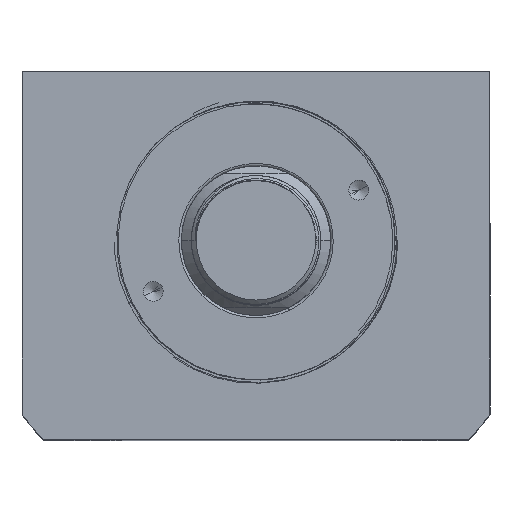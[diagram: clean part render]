
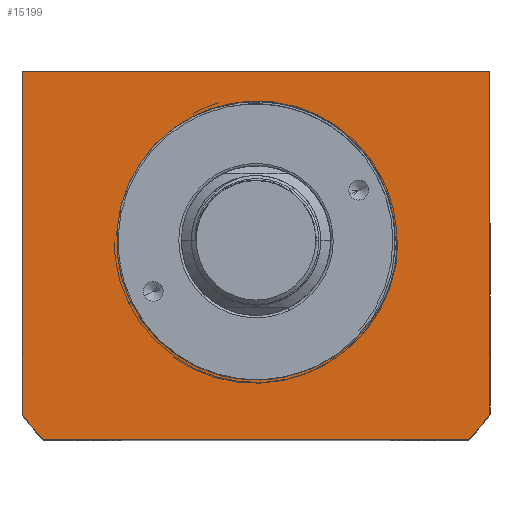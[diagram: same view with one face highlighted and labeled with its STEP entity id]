
A CAD part, top view. The second image highlights one B-rep face of the part: STEP entity #15199.
In plain terms, the highlighted planar face has unit normal (0, 0, 1).
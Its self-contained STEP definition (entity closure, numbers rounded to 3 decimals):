
#452 = DIRECTION ( 'NONE',  ( 1., 0., 0. ) ) ;
#909 = CARTESIAN_POINT ( 'NONE',  ( 19.714, -20.129, 42.5 ) ) ;
#971 = VECTOR ( 'NONE', #2921, 1000. ) ;
#1012 = DIRECTION ( 'NONE',  ( -1., 0., 0. ) ) ;
#1227 = DIRECTION ( 'NONE',  ( 0., 0., 1. ) ) ;
#1289 = VERTEX_POINT ( 'NONE', #8212 ) ;
#1415 = CIRCLE ( 'NONE', #11120, 58.5 ) ;
#1480 = CARTESIAN_POINT ( 'NONE',  ( 0., 0., 42.5 ) ) ;
#1580 = EDGE_LOOP ( 'NONE', ( #5477, #16166, #16432 ) ) ;
#1756 = ORIENTED_EDGE ( 'NONE', *, *, #5158, .T. ) ;
#1800 = CIRCLE ( 'NONE', #11400, 28. ) ;
#1821 = AXIS2_PLACEMENT_3D ( 'NONE', #9131, #13768, #452 ) ;
#1823 = EDGE_CURVE ( 'NONE', #5119, #17941, #16196, .T. ) ;
#2467 = CARTESIAN_POINT ( 'NONE',  ( 24.178, -14.712, 42.5 ) ) ;
#2528 = CARTESIAN_POINT ( 'NONE',  ( 26.694, -9.657, 42.5 ) ) ;
#2652 = CARTESIAN_POINT ( 'NONE',  ( 24.898, -13.504, 42.5 ) ) ;
#2921 = DIRECTION ( 'NONE',  ( 0., -1., 0. ) ) ;
#3237 = DIRECTION ( 'NONE',  ( 0., 0., 1. ) ) ;
#3319 = EDGE_CURVE ( 'NONE', #5119, #4104, #18702, .T. ) ;
#3473 = EDGE_CURVE ( 'NONE', #1289, #18436, #3647, .T. ) ;
#3643 = DIRECTION ( 'NONE',  ( 0., 1., 0. ) ) ;
#3647 = CIRCLE ( 'NONE', #3950, 58.5 ) ;
#3930 = CARTESIAN_POINT ( 'NONE',  ( 18.129, -21.529, 42.5 ) ) ;
#3950 = AXIS2_PLACEMENT_3D ( 'NONE', #1480, #1227, #8678 ) ;
#3993 = CARTESIAN_POINT ( 'NONE',  ( 11.542, -25.544, 42.5 ) ) ;
#4052 = CARTESIAN_POINT ( 'NONE',  ( 10.89, -25.816, 42.5 ) ) ;
#4104 = VERTEX_POINT ( 'NONE', #9238 ) ;
#4114 = CARTESIAN_POINT ( 'NONE',  ( 10.232, -26.064, 42.5 ) ) ;
#4768 = DIRECTION ( 'NONE',  ( 1., 0., 0. ) ) ;
#4950 = FACE_OUTER_BOUND ( 'NONE', #5970, .T. ) ;
#5119 = VERTEX_POINT ( 'NONE', #16341 ) ;
#5158 = EDGE_CURVE ( 'NONE', #8362, #6967, #6825, .T. ) ;
#5268 = ORIENTED_EDGE ( 'NONE', *, *, #6866, .T. ) ;
#5361 = CARTESIAN_POINT ( 'NONE',  ( 27.555, -6.99, 42.5 ) ) ;
#5477 = ORIENTED_EDGE ( 'NONE', *, *, #1823, .F. ) ;
#5970 = EDGE_LOOP ( 'NONE', ( #1756, #6735, #13197, #8801, #5268, #14150 ) ) ;
#6165 = EDGE_CURVE ( 'NONE', #6967, #1289, #11136, .T. ) ;
#6735 = ORIENTED_EDGE ( 'NONE', *, *, #6165, .T. ) ;
#6750 = CARTESIAN_POINT ( 'NONE',  ( 28.323, -2.832, 42.5 ) ) ;
#6825 = LINE ( 'NONE', #14579, #13811 ) ;
#6866 = EDGE_CURVE ( 'NONE', #8788, #12381, #1415, .T. ) ;
#6967 = VERTEX_POINT ( 'NONE', #12274 ) ;
#7026 = CARTESIAN_POINT ( 'NONE',  ( -42.688, -40., 42.5 ) ) ;
#7152 = CARTESIAN_POINT ( 'NONE',  ( 42.688, -40., 42.5 ) ) ;
#7299 = DIRECTION ( 'NONE',  ( 0., 0., -1. ) ) ;
#7354 = DIRECTION ( 'NONE',  ( -1., 0., 0. ) ) ;
#7439 = CARTESIAN_POINT ( 'NONE',  ( 28., 0., 42.5 ) ) ;
#8212 = CARTESIAN_POINT ( 'NONE',  ( -47., -34.832, 42.5 ) ) ;
#8235 = CARTESIAN_POINT ( 'NONE',  ( 27.887, -5.628, 42.5 ) ) ;
#8362 = VERTEX_POINT ( 'NONE', #8448 ) ;
#8368 = CARTESIAN_POINT ( 'NONE',  ( 21.684, -18.094, 42.5 ) ) ;
#8448 = CARTESIAN_POINT ( 'NONE',  ( 47., 34., 42.5 ) ) ;
#8678 = DIRECTION ( 'NONE',  ( 1., 0., 0. ) ) ;
#8788 = VERTEX_POINT ( 'NONE', #14681 ) ;
#8801 = ORIENTED_EDGE ( 'NONE', *, *, #12981, .T. ) ;
#9131 = CARTESIAN_POINT ( 'NONE',  ( 0., 0., 42.5 ) ) ;
#9202 = CARTESIAN_POINT ( 'NONE',  ( 0., 0., 42.5 ) ) ;
#9238 = CARTESIAN_POINT ( 'NONE',  ( 10.232, -26.064, 42.5 ) ) ;
#9558 = CARTESIAN_POINT ( 'NONE',  ( 0., 0., 42.5 ) ) ;
#9725 = CARTESIAN_POINT ( 'NONE',  ( 20.224, -19.631, 42.5 ) ) ;
#9890 = VECTOR ( 'NONE', #3643, 1000. ) ;
#10128 = CARTESIAN_POINT ( 'NONE',  ( 0., 0., 42.5 ) ) ;
#10492 = EDGE_CURVE ( 'NONE', #12381, #8362, #18937, .T. ) ;
#11120 = AXIS2_PLACEMENT_3D ( 'NONE', #9202, #3237, #4768 ) ;
#11136 = LINE ( 'NONE', #17682, #971 ) ;
#11240 = CARTESIAN_POINT ( 'NONE',  ( 13.459, -24.624, 42.5 ) ) ;
#11400 = AXIS2_PLACEMENT_3D ( 'NONE', #10128, #7299, #13210 ) ;
#11422 = CARTESIAN_POINT ( 'NONE',  ( 22.571, -17.007, 42.5 ) ) ;
#11496 = EDGE_CURVE ( 'NONE', #4104, #17941, #1800, .T. ) ;
#12196 = PLANE ( 'NONE',  #1821 ) ;
#12231 = VECTOR ( 'NONE', #1012, 1000. ) ;
#12274 = CARTESIAN_POINT ( 'NONE',  ( -47., 34., 42.5 ) ) ;
#12375 = CARTESIAN_POINT ( 'NONE',  ( 47., 34., 42.5 ) ) ;
#12381 = VERTEX_POINT ( 'NONE', #16552 ) ;
#12788 = CARTESIAN_POINT ( 'NONE',  ( 15.3, -23.593, 42.5 ) ) ;
#12848 = CARTESIAN_POINT ( 'NONE',  ( 28.495, 0., 42.5 ) ) ;
#12916 = CARTESIAN_POINT ( 'NONE',  ( 28.233, -3.538, 42.5 ) ) ;
#12980 = CARTESIAN_POINT ( 'NONE',  ( 18.667, -21.077, 42.5 ) ) ;
#12981 = EDGE_CURVE ( 'NONE', #18436, #8788, #13943, .T. ) ;
#13197 = ORIENTED_EDGE ( 'NONE', *, *, #3473, .T. ) ;
#13210 = DIRECTION ( 'NONE',  ( 1., 0., 0. ) ) ;
#13756 = FACE_BOUND ( 'NONE', #1580, .T. ) ;
#13768 = DIRECTION ( 'NONE',  ( 0., 0., 1. ) ) ;
#13811 = VECTOR ( 'NONE', #7354, 1000. ) ;
#13943 = LINE ( 'NONE', #7152, #15352 ) ;
#14150 = ORIENTED_EDGE ( 'NONE', *, *, #10492, .T. ) ;
#14356 = CARTESIAN_POINT ( 'NONE',  ( 12.831, -24.945, 42.5 ) ) ;
#14438 = DIRECTION ( 'NONE',  ( 1., 0., 0. ) ) ;
#14483 = CARTESIAN_POINT ( 'NONE',  ( 28.485, -0.71, 42.5 ) ) ;
#14579 = CARTESIAN_POINT ( 'NONE',  ( -47., 34., 42.5 ) ) ;
#14681 = CARTESIAN_POINT ( 'NONE',  ( 42.688, -40., 42.5 ) ) ;
#15199 = ADVANCED_FACE ( 'NONE', ( #13756, #4950 ), #12196, .T. ) ;
#15352 = VECTOR ( 'NONE', #14438, 1000. ) ;
#15804 = CARTESIAN_POINT ( 'NONE',  ( 16.467, -22.819, 42.5 ) ) ;
#16166 = ORIENTED_EDGE ( 'NONE', *, *, #3319, .T. ) ;
#16196 = LINE ( 'NONE', #9558, #12231 ) ;
#16341 = CARTESIAN_POINT ( 'NONE',  ( 28.495, 0., 42.5 ) ) ;
#16432 = ORIENTED_EDGE ( 'NONE', *, *, #11496, .T. ) ;
#16552 = CARTESIAN_POINT ( 'NONE',  ( 47., -34.832, 42.5 ) ) ;
#17140 = CARTESIAN_POINT ( 'NONE',  ( 28.449, -1.419, 42.5 ) ) ;
#17682 = CARTESIAN_POINT ( 'NONE',  ( -47., -34.832, 42.5 ) ) ;
#17941 = VERTEX_POINT ( 'NONE', #7439 ) ;
#18436 = VERTEX_POINT ( 'NONE', #7026 ) ;
#18616 = CARTESIAN_POINT ( 'NONE',  ( 26.163, -10.961, 42.5 ) ) ;
#18702 = B_SPLINE_CURVE_WITH_KNOTS ( 'NONE', 3,
 ( #12848, #14483, #17140, #6750, #12916, #8235, #5361, #2528, #18616, #2652, #2467, #11422, #8368, #9725, #909, #12980, #3930, #15804, #12788, #11240, #14356, #3993, #4052, #4114 ),
 .UNSPECIFIED., .F., .F.,
 ( 4, 2, 2, 2, 2, 2, 2, 2, 2, 2, 2, 4 ),
 ( 0., 0.002, 0.004, 0.009, 0.013, 0.017, 0.021, 0.023, 0.026, 0.03, 0.032, 0.034 ),
 .UNSPECIFIED. ) ;
#18937 = LINE ( 'NONE', #12375, #9890 ) ;
